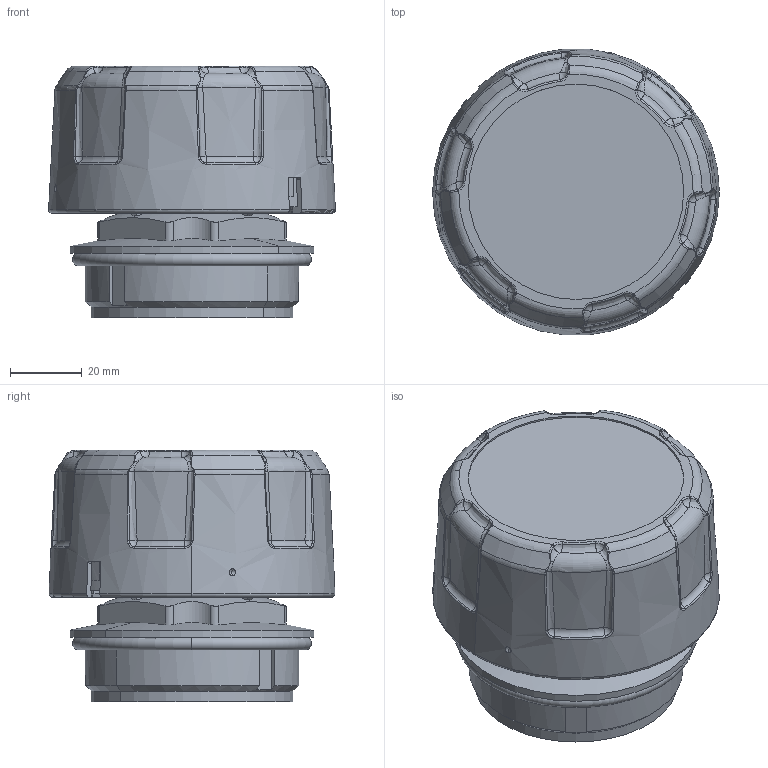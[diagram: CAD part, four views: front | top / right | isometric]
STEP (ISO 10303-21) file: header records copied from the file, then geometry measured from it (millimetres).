
FILE_DESCRIPTION((''),'2;1');
FILE_NAME('30960001_388213','2017-09-26T',('f.kollmann'),(''),'PRO/ENGINEER BY PARAMETRIC TECHNOLOGY CORPORATION, 2015110','PRO/ENGINEER BY PARAMETRIC TECHNOLOGY CORPORATION, 2015110','');
FILE_SCHEMA(('AUTOMOTIVE_DESIGN { 1 0 10303 214 1 1 1 1 }'));
Length unit declared in the file: millimetre
Products named in the file (1): 30960001_388213
Bounding box: 79.89 x 79.62 x 70.1 mm (x, y, z)
Volume: 258900.3 mm3; surface area: 30444.2 mm2
Topology: 1 solids, 3 shells, 396 faces, 997 edges, 613 vertices
Faces by surface type: bspline 178, cylinder 68, plane 60, cone 48, torus 30, sphere 12
Entity records: 22168 total; most frequent: CARTESIAN_POINT 10382, ORIENTED_EDGE 1994, PRESENTATION_STYLE_ASSIGNMENT 1037, DIRECTION 1022, STYLED_ITEM 998, CURVE_STYLE 997, EDGE_CURVE 997, VERTEX_POINT 613
